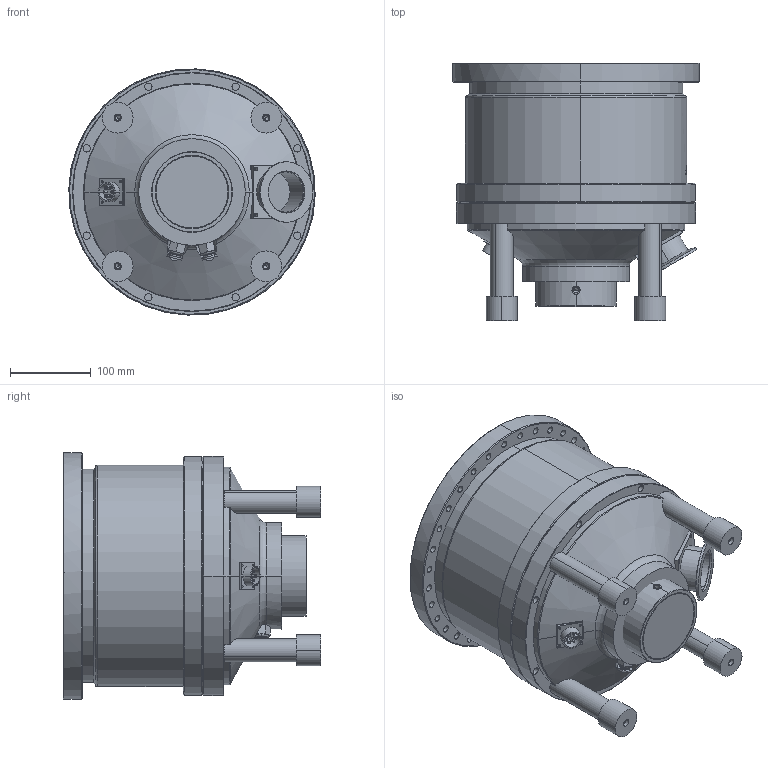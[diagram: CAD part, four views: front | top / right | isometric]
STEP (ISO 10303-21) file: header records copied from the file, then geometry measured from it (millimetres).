
FILE_DESCRIPTION (( 'STEP AP203' ), '1' );
FILE_NAME ('CF-2000DZ-00W.STEP', '2025-03-29T08:57:12', ( 'User' ), ( 'China' ), 'SwSTEP 2.0', 'SolidWorks 2016', '' );
FILE_SCHEMA (( 'CONFIG_CONTROL_DESIGN' ));
Length unit declared in the file: millimetre
Products named in the file (11): JTFB1600D-18-01-01W; JTFB2000DZ-01-01-00｣ﾗ; JTFB2000DZ-01-00W; SJJTB-2000Z-11_1; JTFB1300Z-02W_1; JTFB1600-03; 萇埭諉芛_1; 1600掙虯蝶杶_1; 阨郲_1; JTFB2000Z-04A_1; CF-2000DZ-00W
Assembly tree (17 placements, depth 4):
  CF-2000DZ-00W
    JTFB2000DZ-01-00W
      JTFB2000DZ-01-01-00｣ﾗ
        JTFB1600D-18-01-01W
    SJJTB-2000Z-11_1  x4
    JTFB1300Z-02W_1
    JTFB1600-03
    萇埭諉芛_1
    1600掙虯蝶杶_1  x4
    阨郲_1  x2
    JTFB2000Z-04A_1
Bounding box: 304.92 x 318.25 x 304.75 mm (x, y, z)
Volume: 15802742.5 mm3; surface area: 755350.5 mm2
Topology: 15 solids, 15 shells, 784 faces, 1974 edges, 1266 vertices
Faces by surface type: cylinder 314, plane 198, bspline 141, cone 104, torus 27
Entity records: 45737 total; most frequent: CARTESIAN_POINT 28954, ORIENTED_EDGE 3416, DIRECTION 2853, EDGE_CURVE 1708, AXIS2_PLACEMENT_3D 1204, VERTEX_POINT 1118, EDGE_LOOP 836, ADVANCED_FACE 670
